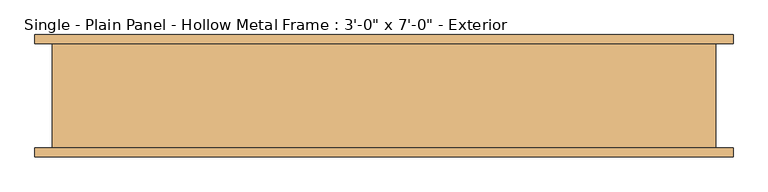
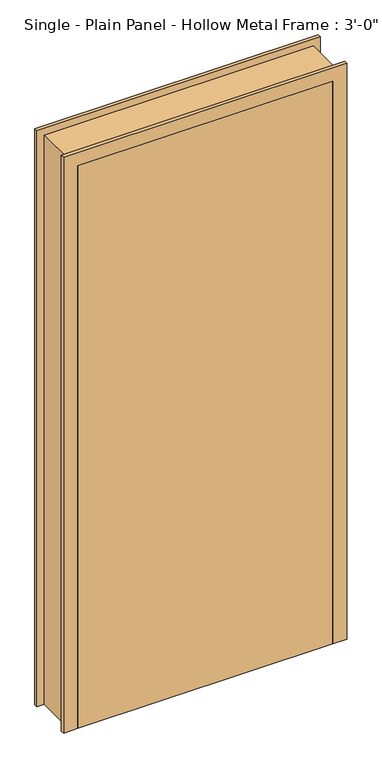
"""IFC4 building model written with IfcOpenShell, lengths in millimetres: door geometry."""

from ifc_helpers import new_model, si_unit, origin, origin_with_axes, place, context, project, spatial, polyline, outline, extrude, faceted_brep, source, transform, mapped, element, save


def door_949ad670(model_context):
    return source(origin(), model_context, "Body", "SolidModel", [
        extrude(outline(polyline([(457.2, -44.45), (457.2, -88.9), (-457.2, -88.9), (-457.2, -44.45), (457.2, -44.45)])), origin_with_axes(), (0.0, 0.0, 1.0), 2133.6),
        faceted_brep([(508.0, 76.2, 0.0), (482.6, 76.2, 0.0), (482.6, -76.2, 0.0), (508.0, -76.2, 0.0), (508.0, -88.9, 0.0), (457.2, -88.9, 0.0), (457.2, -44.45, 0.0), (441.325, -44.45, 0.0), (441.325, 6.35, 0.0), (457.2, 6.35, 0.0), (457.2, 88.9, 0.0), (508.0, 88.9, 0.0), (508.0, 88.9, 2184.4), (508.0, 76.2, 2184.4), (457.2, 88.9, 2133.6), (-457.2, 88.9, 2133.6), (-457.2, 88.9, 0.0), (-508.0, 88.9, 0.0), (-508.0, 88.9, 2184.4), (457.2, 6.35, 2133.6), (441.325, 6.35, 2117.725), (-441.325, 6.35, 2117.725), (-441.325, 6.35, 0.0), (-457.2, 6.35, 0.0), (-457.2, 6.35, 2133.6), (441.325, -44.45, 2117.725), (457.2, -44.45, 2133.6), (-457.2, -44.45, 2133.6), (-457.2, -44.45, 0.0), (-441.325, -44.45, 0.0), (-441.325, -44.45, 2117.725), (457.2, -88.9, 2133.6), (508.0, -88.9, 2184.4), (-508.0, -88.9, 2184.4), (-508.0, -88.9, 0.0), (-457.2, -88.9, 0.0), (-457.2, -88.9, 2133.6), (508.0, -76.2, 2184.4), (482.6, -76.2, 2159.0), (-482.6, -76.2, 2159.0), (-482.6, -76.2, 0.0), (-508.0, -76.2, 0.0), (-508.0, -76.2, 2184.4), (482.6, 76.2, 2159.0), (-508.0, 76.2, 2184.4), (-508.0, 76.2, 0.0), (-482.6, 76.2, 0.0), (-482.6, 76.2, 2159.0)], [[[0, 1, 2, 3, 4, 5, 6, 7, 8, 9, 10, 11]], [[11, 12, 13, 0]], [[10, 14, 15, 16, 17, 18, 12, 11]], [[9, 19, 14, 10]], [[8, 20, 21, 22, 23, 24, 19, 9]], [[7, 25, 20, 8]], [[6, 26, 27, 28, 29, 30, 25, 7]], [[5, 31, 26, 6]], [[4, 32, 33, 34, 35, 36, 31, 5]], [[3, 37, 32, 4]], [[2, 38, 39, 40, 41, 42, 37, 3]], [[1, 43, 38, 2]], [[0, 13, 44, 45, 46, 47, 43, 1]], [[18, 17, 45, 44]], [[45, 17, 16, 23, 22, 29, 28, 35, 34, 41, 40, 46]], [[24, 23, 16, 15]], [[30, 29, 22, 21]], [[36, 35, 28, 27]], [[42, 41, 34, 33]], [[47, 46, 40, 39]], [[12, 18, 44, 13]], [[19, 24, 15, 14]], [[25, 30, 21, 20]], [[31, 36, 27, 26]], [[37, 42, 33, 32]], [[43, 47, 39, 38]]]),
    ])


if __name__ == "__main__":
    model = new_model("IFC4")
    model_context = context("Model", 3, world=origin())
    ifc_project = project(units=[si_unit("LENGTHUNIT", "METRE", prefix="MILLI")], contexts=[model_context])
    site = spatial("IfcSite", under=ifc_project)
    building = spatial("IfcBuilding", under=site)
    placement = place(None, origin())
    door_shape = door_949ad670(model_context)
    element("IfcDoor", 1, ObjectType="Single - Plain Panel - Hollow Metal Frame : 3'-0\" x 7'-0\" - Exterior", at=placement, inside=building, context=model_context, shape_type="MappedRepresentation", body=[
        mapped(door_shape, transform((0.0, 0.0, 0.0), x_axis=(1.0, 0.0, 0.0), y_axis=(0.0, 1.0, 0.0), z_axis=(0.0, 0.0, 1.0))),
    ])
    save(model, "model.ifc")
